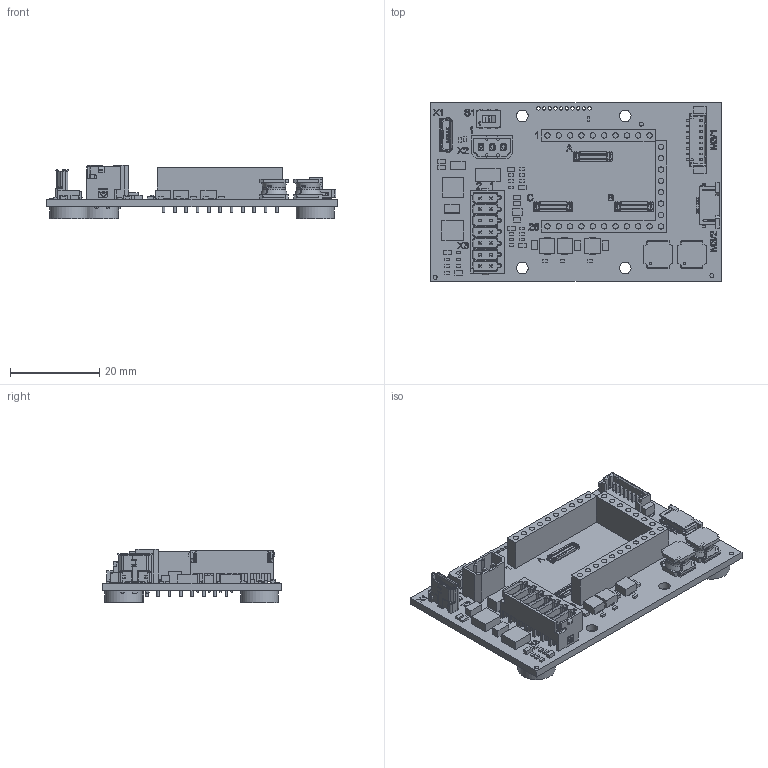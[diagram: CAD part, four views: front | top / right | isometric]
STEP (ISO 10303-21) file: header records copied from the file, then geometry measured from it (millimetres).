
FILE_DESCRIPTION(/* description */ (''),/* implementation_level */ '2;1');
FILE_NAME(/* name */ 'MC3001_DC_PA2-100_HEM3.stp',/* time_stamp */ '2021-01-13T14:32:17+01:00',/* author */ ('DR. FRITZ FAULHABER GmbH & Co. KG'),/* organization */ ('DR. FRITZ FAULHABER GmbH & Co. KG'),/* preprocessor_version */ 'ST-DEVELOPER v16.7',/* originating_system */ 'SIEMENS PLM Software NX 1919',/* authorisation */ '');
FILE_SCHEMA (('AUTOMOTIVE_DESIGN { 1 0 10303 214 3 1 1 1 }'));
Products named in the file (1): 012015_B_1-TP-00207
Bounding box: 65 x 40 x 11.92 mm (x, y, z)
Volume: 7734.7 mm3; surface area: 11070.5 mm2
Topology: 1 solids, 3 shells, 6145 faces, 16695 edges, 10948 vertices
Faces by surface type: plane 4845, cylinder 1018, bspline 153, extrusion 87, cone 30, torus 10, sphere 2
Full cylindrical faces by diameter (mm): 0.6 x28, 0.75 x10, 0.8 x28, 0.9 x3, 1.1 x3, 1.2 x45, 2.6 x4, 8.45 x4
Entity records: 201125 total; most frequent: CARTESIAN_POINT 46269, ORIENTED_EDGE 32962, DIRECTION 29684, EDGE_CURVE 16481, VECTOR 13724, LINE 13637, VERTEX_POINT 10887, AXIS2_PLACEMENT_3D 7980
